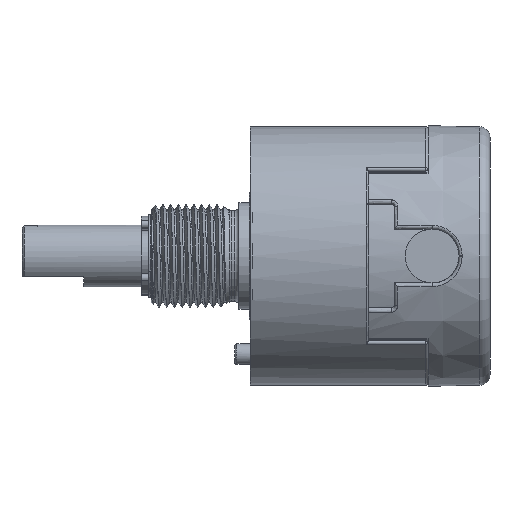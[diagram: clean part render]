
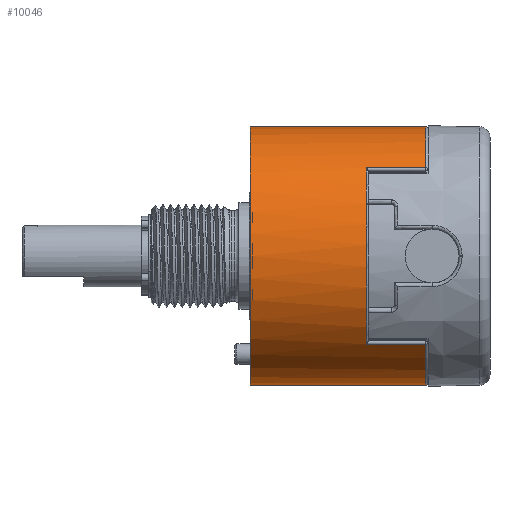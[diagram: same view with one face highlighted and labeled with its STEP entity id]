
A CAD part, front view. The second image highlights one B-rep face of the part: STEP entity #10046.
In plain terms, the highlighted cylindrical face has radius 12.5 mm (diameter 25 mm), a partial arc.
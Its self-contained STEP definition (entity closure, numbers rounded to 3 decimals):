
#408 = LINE ( 'NONE', #10169, #689 ) ;
#689 = VECTOR ( 'NONE', #4769, 1000. ) ;
#752 = CARTESIAN_POINT ( 'NONE',  ( 5.6, -8.937, 8.537 ) ) ;
#1197 = EDGE_CURVE ( 'NONE', #6915, #9466, #9088, .T. ) ;
#1230 = CIRCLE ( 'NONE', #5672, 12.5 ) ;
#1306 = AXIS2_PLACEMENT_3D ( 'NONE', #6272, #8940, #3090 ) ;
#1642 = DIRECTION ( 'NONE',  ( -1., 0., 0. ) ) ;
#1802 = ORIENTED_EDGE ( 'NONE', *, *, #8244, .T. ) ;
#2023 = EDGE_CURVE ( 'NONE', #9216, #6915, #10803, .T. ) ;
#2098 = CARTESIAN_POINT ( 'NONE',  ( -0.2, 0.194, 0. ) ) ;
#2305 = CARTESIAN_POINT ( 'NONE',  ( 5.6, 0.194, -12.5 ) ) ;
#2463 = VERTEX_POINT ( 'NONE', #2305 ) ;
#2533 = CARTESIAN_POINT ( 'NONE',  ( -11.4, 0.194, 12.5 ) ) ;
#2767 = ORIENTED_EDGE ( 'NONE', *, *, #9732, .T. ) ;
#2942 = CARTESIAN_POINT ( 'NONE',  ( -29.87, -8.937, 8.537 ) ) ;
#2973 = CARTESIAN_POINT ( 'NONE',  ( 5.6, 0.194, 0. ) ) ;
#3035 = DIRECTION ( 'NONE',  ( 0., 0., 1. ) ) ;
#3090 = DIRECTION ( 'NONE',  ( 0., 0., -1. ) ) ;
#3798 = ORIENTED_EDGE ( 'NONE', *, *, #3824, .T. ) ;
#3818 = CARTESIAN_POINT ( 'NONE',  ( -29.87, 0.194, 0. ) ) ;
#3824 = EDGE_CURVE ( 'NONE', #4000, #7200, #1230, .T. ) ;
#3860 = VECTOR ( 'NONE', #6480, 1000. ) ;
#4000 = VERTEX_POINT ( 'NONE', #6922 ) ;
#4502 = CARTESIAN_POINT ( 'NONE',  ( -11.4, 0.194, -12.5 ) ) ;
#4532 = DIRECTION ( 'NONE',  ( 0., 0., 1. ) ) ;
#4567 = VECTOR ( 'NONE', #9489, 1000. ) ;
#4769 = DIRECTION ( 'NONE',  ( -1., 0., 0. ) ) ;
#4777 = DIRECTION ( 'NONE',  ( -1., 0., 0. ) ) ;
#4974 = AXIS2_PLACEMENT_3D ( 'NONE', #5356, #1642, #8773 ) ;
#5356 = CARTESIAN_POINT ( 'NONE',  ( 5.6, 0.194, 0. ) ) ;
#5672 = AXIS2_PLACEMENT_3D ( 'NONE', #2098, #4777, #3035 ) ;
#5704 = ORIENTED_EDGE ( 'NONE', *, *, #1197, .T. ) ;
#5869 = VECTOR ( 'NONE', #8279, 1000. ) ;
#5953 = LINE ( 'NONE', #6928, #4567 ) ;
#6112 = ORIENTED_EDGE ( 'NONE', *, *, #2023, .T. ) ;
#6272 = CARTESIAN_POINT ( 'NONE',  ( -11.4, 0.194, 0. ) ) ;
#6345 = VERTEX_POINT ( 'NONE', #9743 ) ;
#6461 = CIRCLE ( 'NONE', #9064, 12.5 ) ;
#6480 = DIRECTION ( 'NONE',  ( 1., 0., 0. ) ) ;
#6493 = CYLINDRICAL_SURFACE ( 'NONE', #7501, 12.5 ) ;
#6545 = DIRECTION ( 'NONE',  ( -1., 0., 0. ) ) ;
#6579 = VERTEX_POINT ( 'NONE', #752 ) ;
#6714 = CARTESIAN_POINT ( 'NONE',  ( 5.6, 0.194, 12.5 ) ) ;
#6877 = ORIENTED_EDGE ( 'NONE', *, *, #10827, .F. ) ;
#6915 = VERTEX_POINT ( 'NONE', #2533 ) ;
#6922 = CARTESIAN_POINT ( 'NONE',  ( -0.2, -8.937, -8.537 ) ) ;
#6928 = CARTESIAN_POINT ( 'NONE',  ( -29.87, -8.937, -8.537 ) ) ;
#7149 = ORIENTED_EDGE ( 'NONE', *, *, #8910, .T. ) ;
#7187 = CIRCLE ( 'NONE', #4974, 12.5 ) ;
#7200 = VERTEX_POINT ( 'NONE', #11430 ) ;
#7288 = LINE ( 'NONE', #2942, #3860 ) ;
#7501 = AXIS2_PLACEMENT_3D ( 'NONE', #3818, #6545, #8392 ) ;
#7623 = EDGE_CURVE ( 'NONE', #2463, #6345, #7187, .T. ) ;
#8073 = EDGE_LOOP ( 'NONE', ( #6877, #9098, #2767, #3798, #1802, #7149, #6112, #5704 ) ) ;
#8244 = EDGE_CURVE ( 'NONE', #7200, #6579, #7288, .T. ) ;
#8279 = DIRECTION ( 'NONE',  ( -1., 0., 0. ) ) ;
#8392 = DIRECTION ( 'NONE',  ( 0., 0., 1. ) ) ;
#8773 = DIRECTION ( 'NONE',  ( 0., 0., 1. ) ) ;
#8910 = EDGE_CURVE ( 'NONE', #6579, #9216, #6461, .T. ) ;
#8940 = DIRECTION ( 'NONE',  ( 1., 0., 0. ) ) ;
#9064 = AXIS2_PLACEMENT_3D ( 'NONE', #2973, #10047, #4532 ) ;
#9088 = CIRCLE ( 'NONE', #1306, 12.5 ) ;
#9098 = ORIENTED_EDGE ( 'NONE', *, *, #7623, .T. ) ;
#9216 = VERTEX_POINT ( 'NONE', #6714 ) ;
#9466 = VERTEX_POINT ( 'NONE', #4502 ) ;
#9489 = DIRECTION ( 'NONE',  ( -1., 0., 0. ) ) ;
#9732 = EDGE_CURVE ( 'NONE', #6345, #4000, #5953, .T. ) ;
#9743 = CARTESIAN_POINT ( 'NONE',  ( 5.6, -8.937, -8.537 ) ) ;
#9915 = FACE_OUTER_BOUND ( 'NONE', #8073, .T. ) ;
#9978 = CARTESIAN_POINT ( 'NONE',  ( -29.87, 0.194, 12.5 ) ) ;
#10046 = ADVANCED_FACE ( 'NONE', ( #9915 ), #6493, .T. ) ;
#10047 = DIRECTION ( 'NONE',  ( -1., 0., 0. ) ) ;
#10169 = CARTESIAN_POINT ( 'NONE',  ( -29.87, 0.194, -12.5 ) ) ;
#10803 = LINE ( 'NONE', #9978, #5869 ) ;
#10827 = EDGE_CURVE ( 'NONE', #2463, #9466, #408, .T. ) ;
#11430 = CARTESIAN_POINT ( 'NONE',  ( -0.2, -8.937, 8.537 ) ) ;
